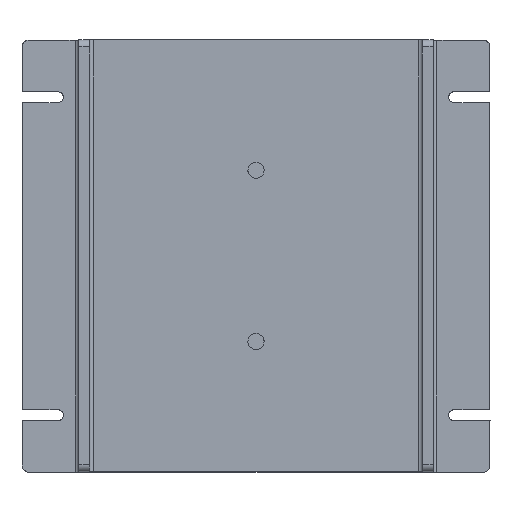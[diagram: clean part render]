
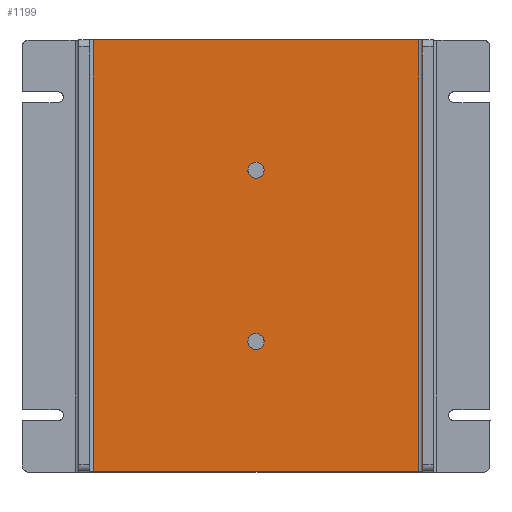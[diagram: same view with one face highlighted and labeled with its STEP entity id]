
A CAD part, top view. The second image highlights one B-rep face of the part: STEP entity #1199.
In plain terms, the highlighted planar face has unit normal (0, 0, 1).
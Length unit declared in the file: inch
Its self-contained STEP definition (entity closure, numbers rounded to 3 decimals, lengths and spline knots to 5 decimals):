
#42=FACE_BOUND('',#3390,.T.);
#43=FACE_BOUND('',#3391,.T.);
#44=FACE_BOUND('',#3392,.T.);
#70=PLANE('',#14576);
#436=B_SPLINE_CURVE_WITH_KNOTS('',1,(#20358,#20359),.UNSPECIFIED.,.F.,.F.,
(2,2),(0.,1.),.UNSPECIFIED.);
#437=B_SPLINE_CURVE_WITH_KNOTS('',1,(#20361,#20362),.UNSPECIFIED.,.F.,.F.,
(2,2),(0.,1.),.UNSPECIFIED.);
#438=B_SPLINE_CURVE_WITH_KNOTS('',1,(#20364,#20365),.UNSPECIFIED.,.F.,.F.,
(2,2),(0.,1.),.UNSPECIFIED.);
#439=B_SPLINE_CURVE_WITH_KNOTS('',1,(#20367,#20368),.UNSPECIFIED.,.F.,.F.,
(2,2),(0.,1.),.UNSPECIFIED.);
#1199=ADVANCED_FACE('',(#42,#43,#44),#70,.T.);
#3390=EDGE_LOOP('',(#5294,#5295,#5296,#5297));
#3391=EDGE_LOOP('',(#5298,#5299,#5300,#5301));
#3392=EDGE_LOOP('',(#5302,#5303,#5304,#5305));
#5294=ORIENTED_EDGE('',*,*,#11591,.F.);
#5295=ORIENTED_EDGE('',*,*,#11590,.F.);
#5296=ORIENTED_EDGE('',*,*,#11592,.T.);
#5297=ORIENTED_EDGE('',*,*,#11593,.T.);
#5298=ORIENTED_EDGE('',*,*,#10692,.T.);
#5299=ORIENTED_EDGE('',*,*,#11594,.T.);
#5300=ORIENTED_EDGE('',*,*,#11595,.T.);
#5301=ORIENTED_EDGE('',*,*,#10693,.T.);
#5302=ORIENTED_EDGE('',*,*,#10686,.T.);
#5303=ORIENTED_EDGE('',*,*,#11596,.T.);
#5304=ORIENTED_EDGE('',*,*,#11597,.T.);
#5305=ORIENTED_EDGE('',*,*,#10687,.T.);
#9096=VERTEX_POINT('',#16729);
#9097=VERTEX_POINT('',#16733);
#9098=VERTEX_POINT('',#16737);
#9102=VERTEX_POINT('',#16750);
#9103=VERTEX_POINT('',#16754);
#9104=VERTEX_POINT('',#16758);
#9996=VERTEX_POINT('',#20353);
#9997=VERTEX_POINT('',#20357);
#9998=VERTEX_POINT('',#20363);
#9999=VERTEX_POINT('',#20366);
#10000=VERTEX_POINT('',#20372);
#10001=VERTEX_POINT('',#20379);
#10686=EDGE_CURVE('',#9097,#9096,#13040,.T.);
#10687=EDGE_CURVE('',#9098,#9097,#13041,.T.);
#10692=EDGE_CURVE('',#9103,#9102,#13044,.T.);
#10693=EDGE_CURVE('',#9104,#9103,#13045,.T.);
#11590=EDGE_CURVE('',#9997,#9996,#436,.T.);
#11591=EDGE_CURVE('',#9996,#9998,#437,.T.);
#11592=EDGE_CURVE('',#9997,#9999,#438,.T.);
#11593=EDGE_CURVE('',#9999,#9998,#439,.T.);
#11594=EDGE_CURVE('',#9102,#10000,#13465,.T.);
#11595=EDGE_CURVE('',#10000,#9104,#13466,.T.);
#11596=EDGE_CURVE('',#9096,#10001,#13467,.T.);
#11597=EDGE_CURVE('',#10001,#9098,#13468,.T.);
#13040=(
BOUNDED_CURVE()
B_SPLINE_CURVE(2,(#16730,#16731,#16732),.UNSPECIFIED.,.F.,.F.)
B_SPLINE_CURVE_WITH_KNOTS((3,3),(0.,1.),.UNSPECIFIED.)
CURVE()
GEOMETRIC_REPRESENTATION_ITEM()
RATIONAL_B_SPLINE_CURVE((1.,0.707,1.))
REPRESENTATION_ITEM('')
);
#13041=(
BOUNDED_CURVE()
B_SPLINE_CURVE(2,(#16734,#16735,#16736),.UNSPECIFIED.,.F.,.F.)
B_SPLINE_CURVE_WITH_KNOTS((3,3),(0.,1.),.UNSPECIFIED.)
CURVE()
GEOMETRIC_REPRESENTATION_ITEM()
RATIONAL_B_SPLINE_CURVE((1.,0.707,1.))
REPRESENTATION_ITEM('')
);
#13044=(
BOUNDED_CURVE()
B_SPLINE_CURVE(2,(#16751,#16752,#16753),.UNSPECIFIED.,.F.,.F.)
B_SPLINE_CURVE_WITH_KNOTS((3,3),(0.,1.),.UNSPECIFIED.)
CURVE()
GEOMETRIC_REPRESENTATION_ITEM()
RATIONAL_B_SPLINE_CURVE((1.,0.707,1.))
REPRESENTATION_ITEM('')
);
#13045=(
BOUNDED_CURVE()
B_SPLINE_CURVE(2,(#16755,#16756,#16757),.UNSPECIFIED.,.F.,.F.)
B_SPLINE_CURVE_WITH_KNOTS((3,3),(0.,1.),.UNSPECIFIED.)
CURVE()
GEOMETRIC_REPRESENTATION_ITEM()
RATIONAL_B_SPLINE_CURVE((1.,0.707,1.))
REPRESENTATION_ITEM('')
);
#13465=(
BOUNDED_CURVE()
B_SPLINE_CURVE(2,(#20369,#20370,#20371),.UNSPECIFIED.,.F.,.F.)
B_SPLINE_CURVE_WITH_KNOTS((3,3),(0.,1.),.UNSPECIFIED.)
CURVE()
GEOMETRIC_REPRESENTATION_ITEM()
RATIONAL_B_SPLINE_CURVE((1.,0.707,1.))
REPRESENTATION_ITEM('')
);
#13466=(
BOUNDED_CURVE()
B_SPLINE_CURVE(2,(#20373,#20374,#20375),.UNSPECIFIED.,.F.,.F.)
B_SPLINE_CURVE_WITH_KNOTS((3,3),(0.,1.),.UNSPECIFIED.)
CURVE()
GEOMETRIC_REPRESENTATION_ITEM()
RATIONAL_B_SPLINE_CURVE((1.,0.707,1.))
REPRESENTATION_ITEM('')
);
#13467=(
BOUNDED_CURVE()
B_SPLINE_CURVE(2,(#20376,#20377,#20378),.UNSPECIFIED.,.F.,.F.)
B_SPLINE_CURVE_WITH_KNOTS((3,3),(0.,1.),.UNSPECIFIED.)
CURVE()
GEOMETRIC_REPRESENTATION_ITEM()
RATIONAL_B_SPLINE_CURVE((1.,0.707,1.))
REPRESENTATION_ITEM('')
);
#13468=(
BOUNDED_CURVE()
B_SPLINE_CURVE(2,(#20380,#20381,#20382),.UNSPECIFIED.,.F.,.F.)
B_SPLINE_CURVE_WITH_KNOTS((3,3),(0.,1.),.UNSPECIFIED.)
CURVE()
GEOMETRIC_REPRESENTATION_ITEM()
RATIONAL_B_SPLINE_CURVE((1.,0.707,1.))
REPRESENTATION_ITEM('')
);
#14576=AXIS2_PLACEMENT_3D('',#20383,#15715,#15716);
#15715=DIRECTION('',(0.,0.,1.));
#15716=DIRECTION('',(1.,0.,0.));
#16729=CARTESIAN_POINT('',(8.28474,4.66302,-0.43791));
#16730=CARTESIAN_POINT('',(8.37332,4.57443,-0.43791));
#16731=CARTESIAN_POINT('',(8.28474,4.57443,-0.43791));
#16732=CARTESIAN_POINT('',(8.28474,4.66302,-0.43791));
#16733=CARTESIAN_POINT('',(8.37332,4.57443,-0.43791));
#16734=CARTESIAN_POINT('',(8.4619,4.66302,-0.43791));
#16735=CARTESIAN_POINT('',(8.4619,4.57443,-0.43791));
#16736=CARTESIAN_POINT('',(8.37332,4.57443,-0.43791));
#16737=CARTESIAN_POINT('',(8.4619,4.66302,-0.43791));
#16750=CARTESIAN_POINT('',(8.28474,2.79039,-0.43791));
#16751=CARTESIAN_POINT('',(8.37332,2.70181,-0.43791));
#16752=CARTESIAN_POINT('',(8.28474,2.70181,-0.43791));
#16753=CARTESIAN_POINT('',(8.28474,2.79039,-0.43791));
#16754=CARTESIAN_POINT('',(8.37332,2.70181,-0.43791));
#16755=CARTESIAN_POINT('',(8.4619,2.79039,-0.43791));
#16756=CARTESIAN_POINT('',(8.4619,2.70181,-0.43791));
#16757=CARTESIAN_POINT('',(8.37332,2.70181,-0.43791));
#16758=CARTESIAN_POINT('',(8.4619,2.79039,-0.43791));
#20353=CARTESIAN_POINT('',(6.59182,6.08891,-0.43791));
#20357=CARTESIAN_POINT('',(6.59182,1.3645,-0.43791));
#20358=CARTESIAN_POINT('',(6.59182,1.3645,-0.43791));
#20359=CARTESIAN_POINT('',(6.59182,6.08891,-0.43791));
#20361=CARTESIAN_POINT('',(6.59182,6.08891,-0.43791));
#20362=CARTESIAN_POINT('',(10.15481,6.08891,-0.43791));
#20363=CARTESIAN_POINT('',(10.15481,6.08891,-0.43791));
#20364=CARTESIAN_POINT('',(6.59182,1.3645,-0.43791));
#20365=CARTESIAN_POINT('',(10.15481,1.3645,-0.43791));
#20366=CARTESIAN_POINT('',(10.15481,1.3645,-0.43791));
#20367=CARTESIAN_POINT('',(10.15481,1.3645,-0.43791));
#20368=CARTESIAN_POINT('',(10.15481,6.08891,-0.43791));
#20369=CARTESIAN_POINT('',(8.28474,2.79039,-0.43791));
#20370=CARTESIAN_POINT('',(8.28474,2.87897,-0.43791));
#20371=CARTESIAN_POINT('',(8.37332,2.87897,-0.43791));
#20372=CARTESIAN_POINT('',(8.37332,2.87897,-0.43791));
#20373=CARTESIAN_POINT('',(8.37332,2.87897,-0.43791));
#20374=CARTESIAN_POINT('',(8.4619,2.87897,-0.43791));
#20375=CARTESIAN_POINT('',(8.4619,2.79039,-0.43791));
#20376=CARTESIAN_POINT('',(8.28474,4.66302,-0.43791));
#20377=CARTESIAN_POINT('',(8.28474,4.7516,-0.43791));
#20378=CARTESIAN_POINT('',(8.37332,4.7516,-0.43791));
#20379=CARTESIAN_POINT('',(8.37332,4.7516,-0.43791));
#20380=CARTESIAN_POINT('',(8.37332,4.7516,-0.43791));
#20381=CARTESIAN_POINT('',(8.4619,4.7516,-0.43791));
#20382=CARTESIAN_POINT('',(8.4619,4.66302,-0.43791));
#20383=CARTESIAN_POINT('',(10.15481,6.08891,-0.43791));
